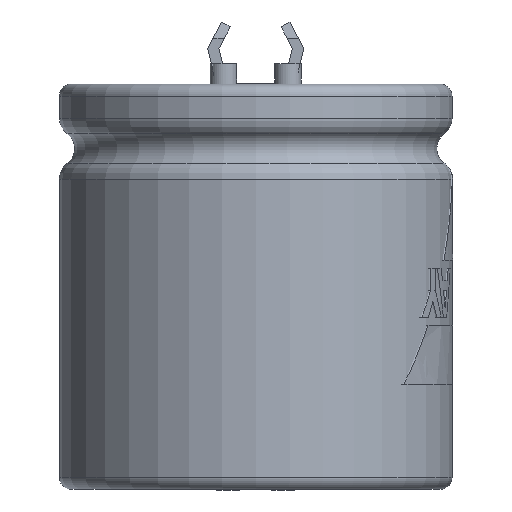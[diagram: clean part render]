
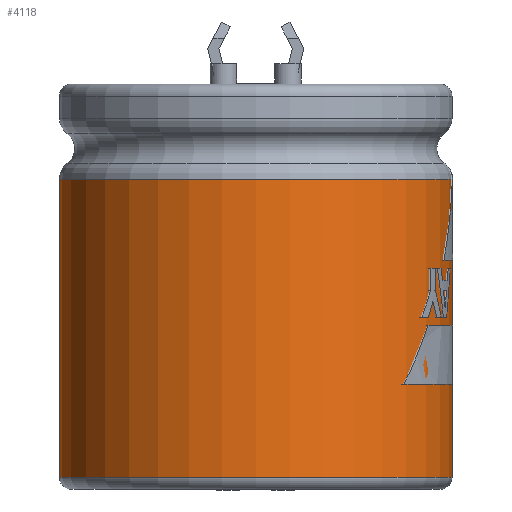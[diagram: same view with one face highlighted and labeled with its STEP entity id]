
A CAD part, left-side view. The second image highlights one B-rep face of the part: STEP entity #4118.
In plain terms, the highlighted cylindrical face has radius 15.5 mm (diameter 31 mm), a full revolution.
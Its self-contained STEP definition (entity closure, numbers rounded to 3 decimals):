
#4050 = TOROIDAL_SURFACE('',#4051,14.,1.5);
#4051 = AXIS2_PLACEMENT_3D('',#4052,#4053,#4054);
#4052 = CARTESIAN_POINT('',(0.,0.,-6.55));
#4053 = DIRECTION('',(0.,0.,1.));
#4054 = DIRECTION('',(1.,0.,0.));
#4066 = EDGE_CURVE('',#4067,#4067,#4069,.T.);
#4067 = VERTEX_POINT('',#4068);
#4068 = CARTESIAN_POINT('',(15.5,0.,
    -6.55));
#4069 = SURFACE_CURVE('',#4070,(#4075,#4082),.PCURVE_S1.);
#4070 = CIRCLE('',#4071,15.5);
#4071 = AXIS2_PLACEMENT_3D('',#4072,#4073,#4074);
#4072 = CARTESIAN_POINT('',(0.,0.,-6.55));
#4073 = DIRECTION('',(0.,0.,1.));
#4074 = DIRECTION('',(1.,0.,0.));
#4075 = PCURVE('',#4050,#4076);
#4076 = DEFINITIONAL_REPRESENTATION('',(#4077),#4081);
#4077 = LINE('',#4078,#4079);
#4078 = CARTESIAN_POINT('',(0.,6.283));
#4079 = VECTOR('',#4080,1.);
#4080 = DIRECTION('',(1.,0.));
#4081 = ( GEOMETRIC_REPRESENTATION_CONTEXT(2) 
PARAMETRIC_REPRESENTATION_CONTEXT() REPRESENTATION_CONTEXT('2D SPACE',''
  ) );
#4082 = PCURVE('',#4083,#4088);
#4083 = CYLINDRICAL_SURFACE('',#4084,15.5);
#4084 = AXIS2_PLACEMENT_3D('',#4085,#4086,#4087);
#4085 = CARTESIAN_POINT('',(0.,0.,-30.1));
#4086 = DIRECTION('',(0.,0.,1.));
#4087 = DIRECTION('',(1.,0.,0.));
#4088 = DEFINITIONAL_REPRESENTATION('',(#4089),#4093);
#4089 = LINE('',#4090,#4091);
#4090 = CARTESIAN_POINT('',(0.,23.55));
#4091 = VECTOR('',#4092,1.);
#4092 = DIRECTION('',(1.,0.));
#4093 = ( GEOMETRIC_REPRESENTATION_CONTEXT(2) 
PARAMETRIC_REPRESENTATION_CONTEXT() REPRESENTATION_CONTEXT('2D SPACE',''
  ) );
#4118 = ADVANCED_FACE('',(#4119),#4083,.T.);
#4119 = FACE_BOUND('',#4120,.T.);
#4120 = EDGE_LOOP('',(#4121,#4150,#4171,#4172));
#4121 = ORIENTED_EDGE('',*,*,#4122,.T.);
#4122 = EDGE_CURVE('',#4123,#4123,#4125,.T.);
#4123 = VERTEX_POINT('',#4124);
#4124 = CARTESIAN_POINT('',(15.5,0.,-30.1));
#4125 = SURFACE_CURVE('',#4126,(#4131,#4138),.PCURVE_S1.);
#4126 = CIRCLE('',#4127,15.5);
#4127 = AXIS2_PLACEMENT_3D('',#4128,#4129,#4130);
#4128 = CARTESIAN_POINT('',(0.,0.,-30.1));
#4129 = DIRECTION('',(0.,0.,1.));
#4130 = DIRECTION('',(1.,0.,0.));
#4131 = PCURVE('',#4083,#4132);
#4132 = DEFINITIONAL_REPRESENTATION('',(#4133),#4137);
#4133 = LINE('',#4134,#4135);
#4134 = CARTESIAN_POINT('',(0.,0.));
#4135 = VECTOR('',#4136,1.);
#4136 = DIRECTION('',(1.,0.));
#4137 = ( GEOMETRIC_REPRESENTATION_CONTEXT(2) 
PARAMETRIC_REPRESENTATION_CONTEXT() REPRESENTATION_CONTEXT('2D SPACE',''
  ) );
#4138 = PCURVE('',#4139,#4144);
#4139 = TOROIDAL_SURFACE('',#4140,14.55,0.95);
#4140 = AXIS2_PLACEMENT_3D('',#4141,#4142,#4143);
#4141 = CARTESIAN_POINT('',(0.,0.,-30.1));
#4142 = DIRECTION('',(0.,0.,1.));
#4143 = DIRECTION('',(1.,0.,0.));
#4144 = DEFINITIONAL_REPRESENTATION('',(#4145),#4149);
#4145 = LINE('',#4146,#4147);
#4146 = CARTESIAN_POINT('',(0.,6.283));
#4147 = VECTOR('',#4148,1.);
#4148 = DIRECTION('',(1.,0.));
#4149 = ( GEOMETRIC_REPRESENTATION_CONTEXT(2) 
PARAMETRIC_REPRESENTATION_CONTEXT() REPRESENTATION_CONTEXT('2D SPACE',''
  ) );
#4150 = ORIENTED_EDGE('',*,*,#4151,.T.);
#4151 = EDGE_CURVE('',#4123,#4067,#4152,.T.);
#4152 = SEAM_CURVE('',#4153,(#4157,#4164),.PCURVE_S1.);
#4153 = LINE('',#4154,#4155);
#4154 = CARTESIAN_POINT('',(15.5,0.,-30.1));
#4155 = VECTOR('',#4156,1.);
#4156 = DIRECTION('',(0.,0.,1.));
#4157 = PCURVE('',#4083,#4158);
#4158 = DEFINITIONAL_REPRESENTATION('',(#4159),#4163);
#4159 = LINE('',#4160,#4161);
#4160 = CARTESIAN_POINT('',(0.,0.));
#4161 = VECTOR('',#4162,1.);
#4162 = DIRECTION('',(0.,1.));
#4163 = ( GEOMETRIC_REPRESENTATION_CONTEXT(2) 
PARAMETRIC_REPRESENTATION_CONTEXT() REPRESENTATION_CONTEXT('2D SPACE',''
  ) );
#4164 = PCURVE('',#4083,#4165);
#4165 = DEFINITIONAL_REPRESENTATION('',(#4166),#4170);
#4166 = LINE('',#4167,#4168);
#4167 = CARTESIAN_POINT('',(6.283,0.));
#4168 = VECTOR('',#4169,1.);
#4169 = DIRECTION('',(0.,1.));
#4170 = ( GEOMETRIC_REPRESENTATION_CONTEXT(2) 
PARAMETRIC_REPRESENTATION_CONTEXT() REPRESENTATION_CONTEXT('2D SPACE',''
  ) );
#4171 = ORIENTED_EDGE('',*,*,#4066,.F.);
#4172 = ORIENTED_EDGE('',*,*,#4151,.F.);
